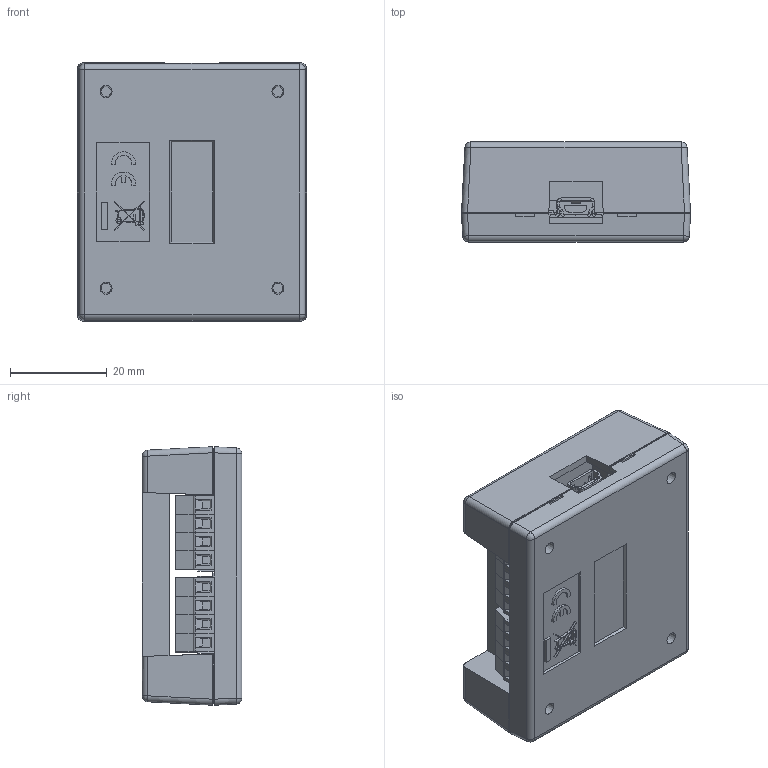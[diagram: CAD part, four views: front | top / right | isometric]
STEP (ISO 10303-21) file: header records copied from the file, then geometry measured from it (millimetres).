
FILE_DESCRIPTION(/* description */ ('Alibre Inc.'),/* implementation_level */ '2;1');
FILE_NAME(/* name */ 'export-AE348E3D-EA6E-4CEA-94B9-F6D0C328DC48',/* time_stamp */ '2023-07-06T12:41:24-06:00',/* author */ (''),/* organization */ (''),/* preprocessor_version */ 'ST-DEVELOPER v17',/* originating_system */ 'Alibre',/* authorisation */ '');
FILE_SCHEMA (('CONFIG_CONTROL_DESIGN'));
Length unit declared in the file: centimetre
Products named in the file (128): Board; Extruded; 5869596736; 5869596544; C25; C14; User_Library-SOT-23-5_pin_SOT_sot-23-6_1; User_Library-SOT-23-5_body_sot23-6_1; User_Library-SOT-23-5; U7; 5869596160; 5869595968; R21; 5869595776; 5869595584; R20; 5869596352; C33; C32; User_Library-ABM8G; Y2; C31; R19; R2; C30; C29; C26; Cylinder; 5869594816; 5869594432; 5869594240; 5869593856; 5869593664; Y1; C17; User_Library-SOT-23-1_1_1; User_Library-SOT-23-1_2_1; User_Library-SOT-23-1_3_1; User_Library-SOT-23-1_4_1; User_Library-SOT-23-1_5_1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
Bounding box: 47.37 x 20.62 x 53.47 mm (x, y, z)
Volume: 18447.7 mm3; surface area: 28099.8 mm2
Topology: 218 solids, 218 shells, 4504 faces, 11323 edges, 7249 vertices
Faces by surface type: plane 3472, cylinder 808, bspline 170, cone 40, sphere 10, torus 4
Full cylindrical faces by diameter (mm): 0.6 x3, 0.711 x2, 1 x2, 1.321 x16, 3.124 x4, 3.175 x4, 4 x2, 4.8 x2
Entity records: 68924 total; most frequent: CARTESIAN_POINT 15024, ORIENTED_EDGE 8178, DIRECTION 6821, EDGE_CURVE 4089, VECTOR 2983, LINE 2983, VERTEX_POINT 2629, AXIS2_PLACEMENT_3D 2447
